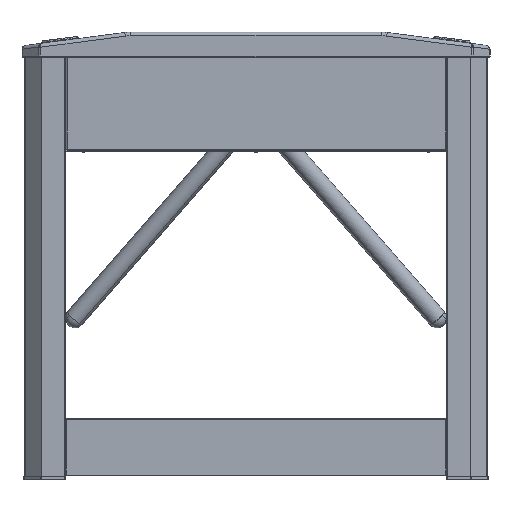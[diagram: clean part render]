
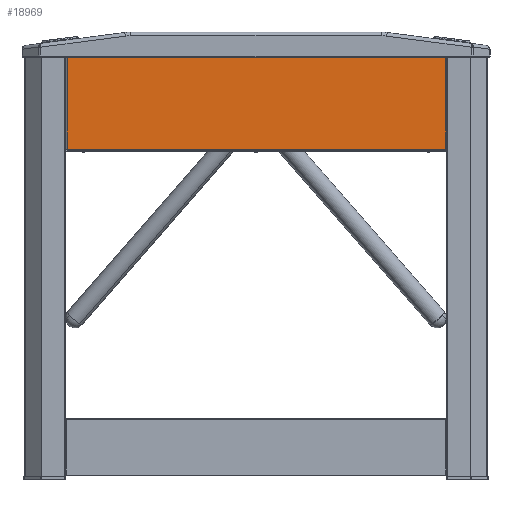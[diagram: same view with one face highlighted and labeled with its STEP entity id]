
A CAD part, front view. The second image highlights one B-rep face of the part: STEP entity #18969.
In plain terms, the highlighted planar face has unit normal (0, -1, 0).
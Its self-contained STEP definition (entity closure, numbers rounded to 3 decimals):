
#21 = LINE ( 'NONE', #885, #4960 ) ;
#83 = DIRECTION ( 'NONE',  ( 0., 0., 1. ) ) ;
#203 = LINE ( 'NONE', #13165, #12456 ) ;
#283 = VERTEX_POINT ( 'NONE', #9439 ) ;
#572 = CARTESIAN_POINT ( 'NONE',  ( 866.986, -78.153, 714.9 ) ) ;
#636 = CARTESIAN_POINT ( 'NONE',  ( 44.586, -78.153, 918. ) ) ;
#885 = CARTESIAN_POINT ( 'NONE',  ( 869.786, -78.153, 915.2 ) ) ;
#900 = VERTEX_POINT ( 'NONE', #11291 ) ;
#941 = LINE ( 'NONE', #23080, #2839 ) ;
#990 = DIRECTION ( 'NONE',  ( 0., 0., -1. ) ) ;
#1631 = CARTESIAN_POINT ( 'NONE',  ( 866.986, -78.153, 714.9 ) ) ;
#1668 = VERTEX_POINT ( 'NONE', #6962 ) ;
#2492 = EDGE_CURVE ( 'NONE', #14791, #8397, #941, .T. ) ;
#2609 = VECTOR ( 'NONE', #6425, 1000. ) ;
#2839 = VECTOR ( 'NONE', #4809, 1000. ) ;
#2843 = ORIENTED_EDGE ( 'NONE', *, *, #9222, .T. ) ;
#3804 = DIRECTION ( 'NONE',  ( 0., 0., 1. ) ) ;
#4147 = VECTOR ( 'NONE', #990, 1000. ) ;
#4289 = DIRECTION ( 'NONE',  ( 1., 0., 0. ) ) ;
#4295 = DIRECTION ( 'NONE',  ( 0., 0., -1. ) ) ;
#4395 = CARTESIAN_POINT ( 'NONE',  ( 866.986, -78.153, 915.2 ) ) ;
#4479 = EDGE_CURVE ( 'NONE', #23704, #5253, #20856, .T. ) ;
#4506 = PLANE ( 'NONE',  #10322 ) ;
#4612 = CARTESIAN_POINT ( 'NONE',  ( 869.786, -78.153, 918. ) ) ;
#4667 = CARTESIAN_POINT ( 'NONE',  ( 866.986, -78.153, 715.4 ) ) ;
#4809 = DIRECTION ( 'NONE',  ( 0., 0., 1. ) ) ;
#4960 = VECTOR ( 'NONE', #6091, 1000. ) ;
#4989 = CARTESIAN_POINT ( 'NONE',  ( 869.786, -78.153, 915.2 ) ) ;
#5253 = VERTEX_POINT ( 'NONE', #8272 ) ;
#5433 = VECTOR ( 'NONE', #4295, 1000. ) ;
#5526 = VERTEX_POINT ( 'NONE', #4395 ) ;
#6091 = DIRECTION ( 'NONE',  ( -1., 0., 0. ) ) ;
#6284 = EDGE_CURVE ( 'NONE', #11768, #1668, #14182, .T. ) ;
#6425 = DIRECTION ( 'NONE',  ( -1., 0., 0. ) ) ;
#6641 = CARTESIAN_POINT ( 'NONE',  ( 44.086, -78.153, 715.4 ) ) ;
#6659 = LINE ( 'NONE', #19582, #2609 ) ;
#6742 = EDGE_CURVE ( 'NONE', #900, #5526, #21, .T. ) ;
#6831 = ORIENTED_EDGE ( 'NONE', *, *, #6742, .T. ) ;
#6898 = CARTESIAN_POINT ( 'NONE',  ( 867.486, -78.153, 715.4 ) ) ;
#6962 = CARTESIAN_POINT ( 'NONE',  ( 44.586, -78.153, 714.9 ) ) ;
#7003 = LINE ( 'NONE', #23459, #11564 ) ;
#8272 = CARTESIAN_POINT ( 'NONE',  ( 44.586, -78.153, 915.2 ) ) ;
#8397 = VERTEX_POINT ( 'NONE', #4667 ) ;
#9046 = DIRECTION ( 'NONE',  ( 1., 0., 0. ) ) ;
#9222 = EDGE_CURVE ( 'NONE', #283, #16456, #10092, .T. ) ;
#9439 = CARTESIAN_POINT ( 'NONE',  ( 44.086, -78.153, 915.2 ) ) ;
#9845 = EDGE_CURVE ( 'NONE', #16456, #11768, #7003, .T. ) ;
#9880 = DIRECTION ( 'NONE',  ( 1., 0., 0. ) ) ;
#9943 = CARTESIAN_POINT ( 'NONE',  ( 869.786, -78.153, 715.4 ) ) ;
#10092 = LINE ( 'NONE', #17493, #13867 ) ;
#10175 = DIRECTION ( 'NONE',  ( 0., -1., 0. ) ) ;
#10187 = CARTESIAN_POINT ( 'NONE',  ( 44.586, -78.153, 918. ) ) ;
#10322 = AXIS2_PLACEMENT_3D ( 'NONE', #4612, #10175, #17570 ) ;
#10471 = CARTESIAN_POINT ( 'NONE',  ( 44.586, -78.153, 915.7 ) ) ;
#10581 = ORIENTED_EDGE ( 'NONE', *, *, #4479, .T. ) ;
#11039 = LINE ( 'NONE', #18430, #19172 ) ;
#11291 = CARTESIAN_POINT ( 'NONE',  ( 867.486, -78.153, 915.2 ) ) ;
#11423 = ORIENTED_EDGE ( 'NONE', *, *, #17540, .T. ) ;
#11564 = VECTOR ( 'NONE', #9046, 1000. ) ;
#11768 = VERTEX_POINT ( 'NONE', #18803 ) ;
#12456 = VECTOR ( 'NONE', #83, 1000. ) ;
#12480 = DIRECTION ( 'NONE',  ( -1., 0., 0. ) ) ;
#12727 = VERTEX_POINT ( 'NONE', #6898 ) ;
#12766 = ORIENTED_EDGE ( 'NONE', *, *, #14946, .T. ) ;
#12924 = VECTOR ( 'NONE', #4289, 1000. ) ;
#13165 = CARTESIAN_POINT ( 'NONE',  ( 866.986, -78.153, 918. ) ) ;
#13867 = VECTOR ( 'NONE', #19408, 1000. ) ;
#14182 = LINE ( 'NONE', #10187, #4147 ) ;
#14241 = EDGE_CURVE ( 'NONE', #1668, #14791, #17167, .T. ) ;
#14251 = CARTESIAN_POINT ( 'NONE',  ( 866.986, -78.153, 915.7 ) ) ;
#14298 = EDGE_LOOP ( 'NONE', ( #16474, #16880, #10581, #14941, #2843, #20474, #19968, #22199, #17801, #11423, #12766, #6831 ) ) ;
#14458 = VERTEX_POINT ( 'NONE', #14251 ) ;
#14791 = VERTEX_POINT ( 'NONE', #1631 ) ;
#14941 = ORIENTED_EDGE ( 'NONE', *, *, #21572, .T. ) ;
#14946 = EDGE_CURVE ( 'NONE', #12727, #900, #11039, .T. ) ;
#15088 = VECTOR ( 'NONE', #12480, 1000. ) ;
#15823 = EDGE_CURVE ( 'NONE', #14458, #23704, #6659, .T. ) ;
#16110 = LINE ( 'NONE', #4989, #15088 ) ;
#16456 = VERTEX_POINT ( 'NONE', #6641 ) ;
#16474 = ORIENTED_EDGE ( 'NONE', *, *, #22824, .T. ) ;
#16880 = ORIENTED_EDGE ( 'NONE', *, *, #15823, .T. ) ;
#17167 = LINE ( 'NONE', #572, #19138 ) ;
#17493 = CARTESIAN_POINT ( 'NONE',  ( 44.086, -78.153, 715.4 ) ) ;
#17540 = EDGE_CURVE ( 'NONE', #8397, #12727, #22549, .T. ) ;
#17570 = DIRECTION ( 'NONE',  ( 1., 0., 0. ) ) ;
#17801 = ORIENTED_EDGE ( 'NONE', *, *, #2492, .T. ) ;
#18430 = CARTESIAN_POINT ( 'NONE',  ( 867.486, -78.153, 915.2 ) ) ;
#18803 = CARTESIAN_POINT ( 'NONE',  ( 44.586, -78.153, 715.4 ) ) ;
#18969 = ADVANCED_FACE ( 'NONE', ( #22763 ), #4506, .T. ) ;
#19138 = VECTOR ( 'NONE', #9880, 1000. ) ;
#19172 = VECTOR ( 'NONE', #3804, 1000. ) ;
#19408 = DIRECTION ( 'NONE',  ( 0., 0., -1. ) ) ;
#19582 = CARTESIAN_POINT ( 'NONE',  ( 44.586, -78.153, 915.7 ) ) ;
#19968 = ORIENTED_EDGE ( 'NONE', *, *, #6284, .T. ) ;
#20474 = ORIENTED_EDGE ( 'NONE', *, *, #9845, .T. ) ;
#20856 = LINE ( 'NONE', #636, #5433 ) ;
#21572 = EDGE_CURVE ( 'NONE', #5253, #283, #16110, .T. ) ;
#22199 = ORIENTED_EDGE ( 'NONE', *, *, #14241, .T. ) ;
#22549 = LINE ( 'NONE', #9943, #12924 ) ;
#22763 = FACE_OUTER_BOUND ( 'NONE', #14298, .T. ) ;
#22824 = EDGE_CURVE ( 'NONE', #5526, #14458, #203, .T. ) ;
#23080 = CARTESIAN_POINT ( 'NONE',  ( 866.986, -78.153, 918. ) ) ;
#23459 = CARTESIAN_POINT ( 'NONE',  ( 869.786, -78.153, 715.4 ) ) ;
#23704 = VERTEX_POINT ( 'NONE', #10471 ) ;
